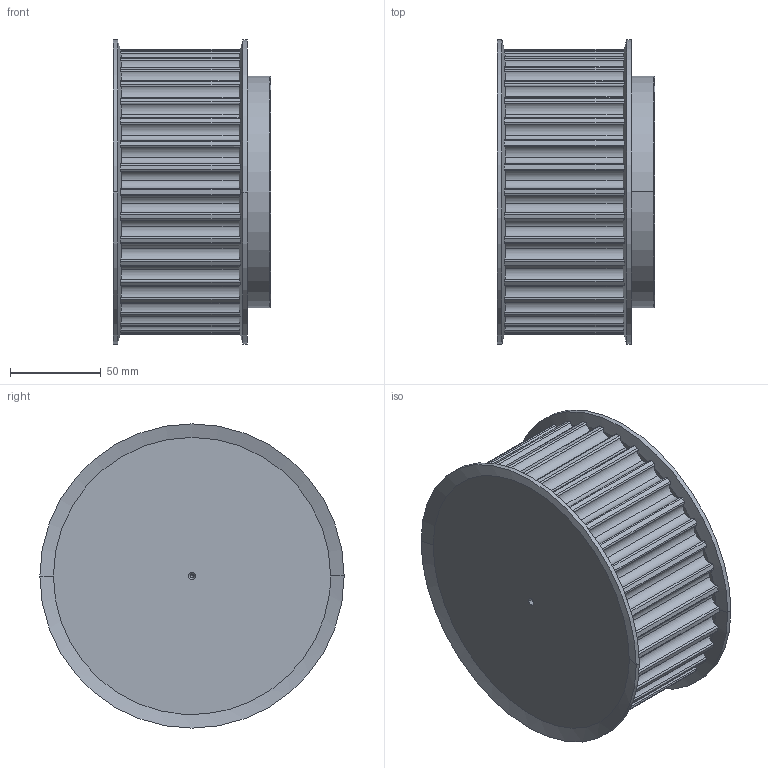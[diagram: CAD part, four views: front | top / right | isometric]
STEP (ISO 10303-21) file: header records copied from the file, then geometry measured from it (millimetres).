
FILE_DESCRIPTION(('STEP AP203'),'1');
FILE_NAME('36_-_14_m_55.stp','2018-12-04T07:34:47',('TraceParts'),('TraceParts S.A.'),'Spatial InterOp 3D',' ',' ');
FILE_SCHEMA(('CONFIG_CONTROL_DESIGN'));
Length unit declared in the file: millimetre
Products named in the file (1): 1
Bounding box: 87.01 x 168 x 168 mm (x, y, z)
Volume: 1491302.8 mm3; surface area: 103455.1 mm2
Topology: 1 solids, 1 shells, 283 faces, 826 edges, 544 vertices
Faces by surface type: cylinder 190, plane 75, cone 18
Entity records: 10930 total; most frequent: CARTESIAN_POINT 3666, ORIENTED_EDGE 1644, DIRECTION 1428, EDGE_CURVE 822, AXIS2_PLACEMENT_3D 610, VERTEX_POINT 544, CIRCLE 326, B_SPLINE_CURVE_WITH_KNOTS 288
